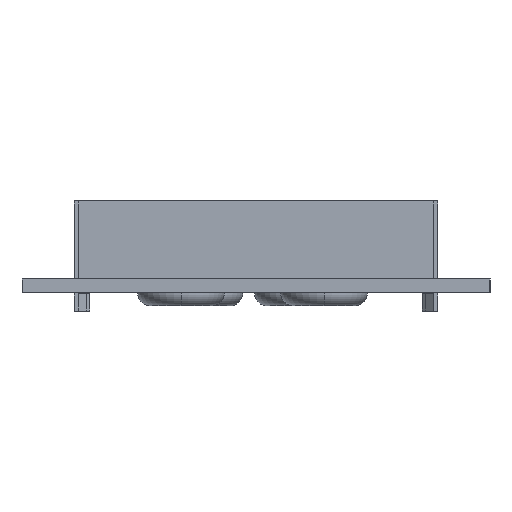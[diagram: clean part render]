
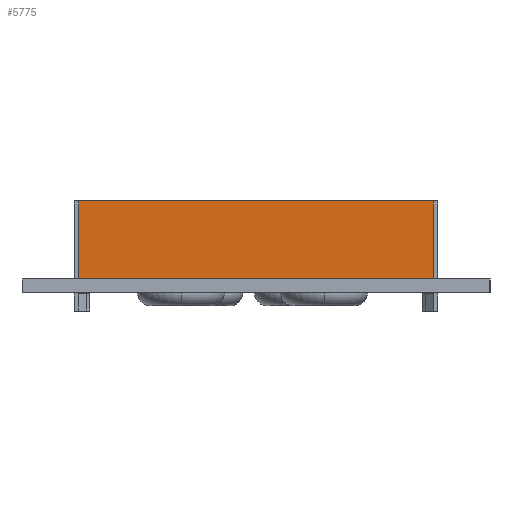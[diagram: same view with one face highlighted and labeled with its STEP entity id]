
A CAD part, left-side view. The second image highlights one B-rep face of the part: STEP entity #5775.
In plain terms, the highlighted planar face has unit normal (-1, 0, 0).
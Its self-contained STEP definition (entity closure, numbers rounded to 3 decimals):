
#98 = LINE ( 'NONE', #3255, #8131 ) ;
#1072 = VERTEX_POINT ( 'NONE', #20077 ) ;
#1134 = VECTOR ( 'NONE', #9027, 1000. ) ;
#1291 = CARTESIAN_POINT ( 'NONE',  ( -83.15, -20.45, 1.6 ) ) ;
#1391 = ORIENTED_EDGE ( 'NONE', *, *, #19412, .F. ) ;
#1733 = EDGE_LOOP ( 'NONE', ( #19386, #6392, #1391, #18931 ) ) ;
#1790 = EDGE_CURVE ( 'NONE', #1072, #11872, #98, .T. ) ;
#2128 = CARTESIAN_POINT ( 'NONE',  ( -83.15, 20.45, 10.6 ) ) ;
#2335 = DIRECTION ( 'NONE',  ( 0., 0., -1. ) ) ;
#2541 = CARTESIAN_POINT ( 'NONE',  ( -83.15, 20.45, 10.6 ) ) ;
#2872 = DIRECTION ( 'NONE',  ( 0., 0., -1. ) ) ;
#3255 = CARTESIAN_POINT ( 'NONE',  ( -83.15, -20.45, 10.6 ) ) ;
#3319 = DIRECTION ( 'NONE',  ( 0., 0., -1. ) ) ;
#3925 = CARTESIAN_POINT ( 'NONE',  ( -83.15, 20.45, 10.6 ) ) ;
#4021 = LINE ( 'NONE', #12484, #8335 ) ;
#5012 = EDGE_CURVE ( 'NONE', #11727, #10765, #4021, .T. ) ;
#5310 = LINE ( 'NONE', #18678, #17538 ) ;
#5405 = LINE ( 'NONE', #2541, #1134 ) ;
#5775 = ADVANCED_FACE ( 'NONE', ( #5855 ), #15188, .F. ) ;
#5855 = FACE_OUTER_BOUND ( 'NONE', #1733, .T. ) ;
#6392 = ORIENTED_EDGE ( 'NONE', *, *, #1790, .F. ) ;
#8131 = VECTOR ( 'NONE', #3319, 1000. ) ;
#8335 = VECTOR ( 'NONE', #2872, 1000. ) ;
#9027 = DIRECTION ( 'NONE',  ( 0., -1., 0. ) ) ;
#9363 = AXIS2_PLACEMENT_3D ( 'NONE', #3925, #13516, #2335 ) ;
#10765 = VERTEX_POINT ( 'NONE', #16431 ) ;
#11727 = VERTEX_POINT ( 'NONE', #2128 ) ;
#11872 = VERTEX_POINT ( 'NONE', #1291 ) ;
#12484 = CARTESIAN_POINT ( 'NONE',  ( -83.15, 20.45, 10.6 ) ) ;
#13452 = EDGE_CURVE ( 'NONE', #10765, #11872, #5310, .T. ) ;
#13516 = DIRECTION ( 'NONE',  ( 1., 0., 0. ) ) ;
#15188 = PLANE ( 'NONE',  #9363 ) ;
#16431 = CARTESIAN_POINT ( 'NONE',  ( -83.15, 20.45, 1.6 ) ) ;
#17538 = VECTOR ( 'NONE', #18601, 1000. ) ;
#18601 = DIRECTION ( 'NONE',  ( 0., -1., 0. ) ) ;
#18678 = CARTESIAN_POINT ( 'NONE',  ( -83.15, 20.45, 1.6 ) ) ;
#18931 = ORIENTED_EDGE ( 'NONE', *, *, #5012, .T. ) ;
#19386 = ORIENTED_EDGE ( 'NONE', *, *, #13452, .T. ) ;
#19412 = EDGE_CURVE ( 'NONE', #11727, #1072, #5405, .T. ) ;
#20077 = CARTESIAN_POINT ( 'NONE',  ( -83.15, -20.45, 10.6 ) ) ;
